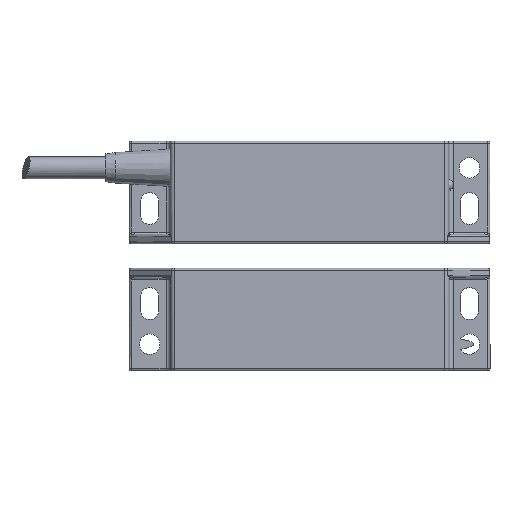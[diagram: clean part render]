
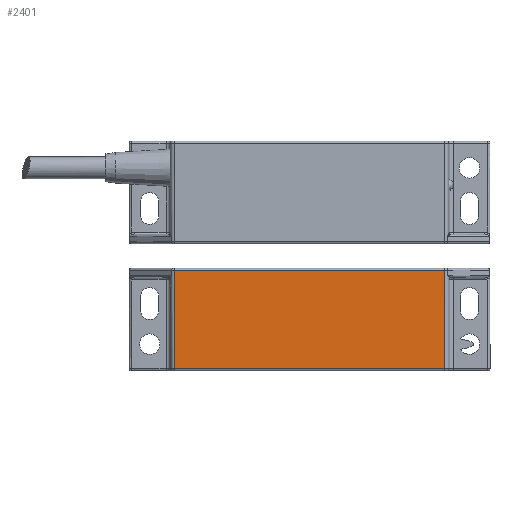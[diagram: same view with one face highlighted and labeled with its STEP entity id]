
A CAD part, top view. The second image highlights one B-rep face of the part: STEP entity #2401.
In plain terms, the highlighted planar face has unit normal (0, 0, 1).
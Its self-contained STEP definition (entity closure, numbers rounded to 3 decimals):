
#144=CARTESIAN_POINT('',(11.01,0.5,13.));
#145=VERTEX_POINT('',#144);
#153=CARTESIAN_POINT('',(11.01,24.5,13.));
#154=VERTEX_POINT('',#153);
#155=CARTESIAN_POINT('',(11.01,0.5,13.));
#156=DIRECTION('',(0.0,1.0,0.0));
#157=VECTOR('',#156,24.);
#158=LINE('',#155,#157);
#159=EDGE_CURVE('',#145,#154,#158,.T.);
#790=CARTESIAN_POINT('',(76.912,24.5,13.));
#791=VERTEX_POINT('',#790);
#799=CARTESIAN_POINT('',(76.912,0.5,13.));
#800=VERTEX_POINT('',#799);
#801=CARTESIAN_POINT('',(76.912,24.5,13.));
#802=DIRECTION('',(0.0,-1.0,0.0));
#803=VECTOR('',#802,24.);
#804=LINE('',#801,#803);
#805=EDGE_CURVE('',#791,#800,#804,.T.);
#2364=CARTESIAN_POINT('',(76.912,0.5,13.));
#2365=DIRECTION('',(-1.0,0.0,0.0));
#2366=VECTOR('',#2365,65.902);
#2367=LINE('',#2364,#2366);
#2368=EDGE_CURVE('',#800,#145,#2367,.T.);
#2385=CARTESIAN_POINT('',(44.,12.5,13.));
#2386=DIRECTION('',(0.0,0.0,1.0));
#2387=DIRECTION('',(1.0,0.0,0.0));
#2388=AXIS2_PLACEMENT_3D('',#2385,#2386,#2387);
#2389=PLANE('',#2388);
#2390=ORIENTED_EDGE('',*,*,#2368,.F.);
#2391=ORIENTED_EDGE('',*,*,#805,.F.);
#2392=CARTESIAN_POINT('',(11.01,24.5,13.));
#2393=DIRECTION('',(1.0,0.,0.));
#2394=VECTOR('',#2393,65.902);
#2395=LINE('',#2392,#2394);
#2396=EDGE_CURVE('',#154,#791,#2395,.T.);
#2397=ORIENTED_EDGE('',*,*,#2396,.F.);
#2398=ORIENTED_EDGE('',*,*,#159,.F.);
#2399=EDGE_LOOP('',(#2390,#2391,#2397,#2398));
#2400=FACE_OUTER_BOUND('',#2399,.T.);
#2401=ADVANCED_FACE('',(#2400),#2389,.T.);
